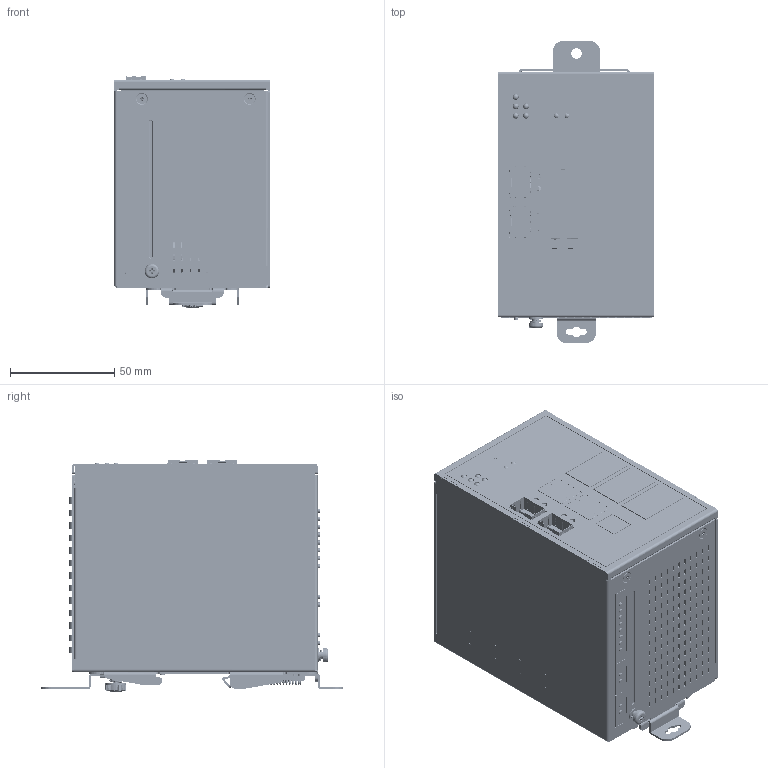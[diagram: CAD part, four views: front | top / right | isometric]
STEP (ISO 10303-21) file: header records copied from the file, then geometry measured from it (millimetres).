
FILE_DESCRIPTION((''),'2;1');
FILE_NAME('DVS-108W02-2SFP-R_ME-CENTER_ASM','2014-12-08T',('ANDREW.AS.SUN'),(''),'PRO/ENGINEER BY PARAMETRIC TECHNOLOGY CORPORATION, 2010280','PRO/ENGINEER BY PARAMETRIC TECHNOLOGY CORPORATION, 2010280','');
FILE_SCHEMA(('CONFIG_CONTROL_DESIGN'));
Products named in the file (138): 3991137800_BASE; STUD_M3_0_3; STUD_M3_0-S_3; 3991137800_BASE-ASSY_ASM; 3991137700_COVER; 3991172600_PANEL; PCB-M-8P; 145224712137-CAPACITOR; POWER-PIN-08; POWER-PIN-02; 0720133455-CHIDINCHI; SFP-C-1367073-01-G-3D; 3460511900_011AD-001; MT-SDPL003; SFP-ASSY_ASM; LA112B-2G-PF-2LED; LA112B-2G-PF-1LED; 2X20-PIN-HEADER-FEMALE; 2812113912-LINE-FILTER; _DVS-110W02-3SFP_PWR_TOP_201211; _DVS-110W02-3SFP_PWR_BOT_201211; PWR-PCB_ASM; PCB-GIGA; RJM_1PORT__D______-5; PW-XRJM-4PORT-INSERT_3-2-13; LED1-5; RJM_1PORT___NN__K_____LED_O____; 307228297C-1-PORTRJ45_ASM; 1-2_TS-27H-B_; 307234656B_G3700-4ANT1S1W; 2X20-PIN-HEADER-MALE; CHIP-GST5009M; _DVS-110W02-3SFP_GB_20121115_TO; _DVS-110W02-3SFP_GB_20121115_BO; 3347099401_HSK; GIGA-PCB_ASM; PCB-M-16P; 307246537C-2-STAND-RJ45; DVS-110W02-3SFP_MAIN_1115_TOP; DVS-110W02-3SFP_MAIN_1115_BOT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
Assembly tree (1147 placements, depth 4):
  DVS-108W02-2SFP-R_ME-CENTER_ASM
    3991137800_BASE-ASSY_ASM
      3991137800_BASE
      STUD_M3_0_3  x2
      STUD_M3_0-S_3  x2
    3991137700_COVER
    3991172600_PANEL
    PWR-PCB_ASM
      PCB-M-8P
      145224712137-CAPACITOR  x4
      POWER-PIN-08
      POWER-PIN-02  x2
      0720133455-CHIDINCHI  x2
      SFP-ASSY_ASM  x2
        SFP-C-1367073-01-G-3D
        3460511900_011AD-001
        MT-SDPL003
      LA112B-2G-PF-2LED  x2
      LA112B-2G-PF-1LED
      2X20-PIN-HEADER-FEMALE  x2
      2812113912-LINE-FILTER
      _DVS-110W02-3SFP_PWR_TOP_201211
      _DVS-110W02-3SFP_PWR_BOT_201211
    GIGA-PCB_ASM
      PCB-GIGA
      307228297C-1-PORTRJ45_ASM  x2
        RJM_1PORT__D______-5
        PW-XRJM-4PORT-INSERT_3-2-13
        LED1-5
        RJM_1PORT___NN__K_____LED_O____
      1-2_TS-27H-B_
      307234656B_G3700-4ANT1S1W
      LA112B-2G-PF-2LED
      2X20-PIN-HEADER-MALE  x2
      2X20-PIN-HEADER-FEMALE  x2
      CHIP-GST5009M  x3
      _DVS-110W02-3SFP_GB_20121115_TO
      _DVS-110W02-3SFP_GB_20121115_BO
      3347099401_HSK
    MAIN-PCB_ASM
      PCB-M-16P
      307246537C-2-STAND-RJ45  x3
      2X20-PIN-HEADER-MALE  x2
      DVS-110W02-3SFP_MAIN_1115_TOP
      DVS-110W02-3SFP_MAIN_1115_BOT
    STAND_OFF_18  x8
    3105460500  x10
    SCREW_M4
    3242274600_INSULATOR
    3205302300-NAMEPLATE
    DVS-110W02-3SFP_2976442000_PB_B_ASM
      DVS-110W02-3SFP_2976442000_PB_B
      CNSH2X20AA-1D27B  x2
      GDTS2R044X050X050-3D9  x2
      TD_L6
      MLQC_5
      RPS8P4RA-D5  x6
      IC_SOT236A-D95  x2
      MS1_4D2_8  x2
      MS1_3D2_8  x2
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Bounding box: 75.4 x 145.3 x 111.08 mm (x, y, z)
Volume: 391140 mm3; surface area: 474242.5 mm2
Topology: 1308 solids, 1339 shells, 26443 faces, 68770 edges, 44737 vertices
Faces by surface type: plane 20136, cylinder 5661, bspline 239, cone 190, torus 152, extrusion 39, sphere 26
Entity records: 336870 total; most frequent: CARTESIAN_POINT 76766, DIRECTION 53998, ORIENTED_EDGE 52094, EDGE_CURVE 26279, VECTOR 20400, LINE 20369, VERTEX_POINT 16939, AXIS2_PLACEMENT_3D 16799
